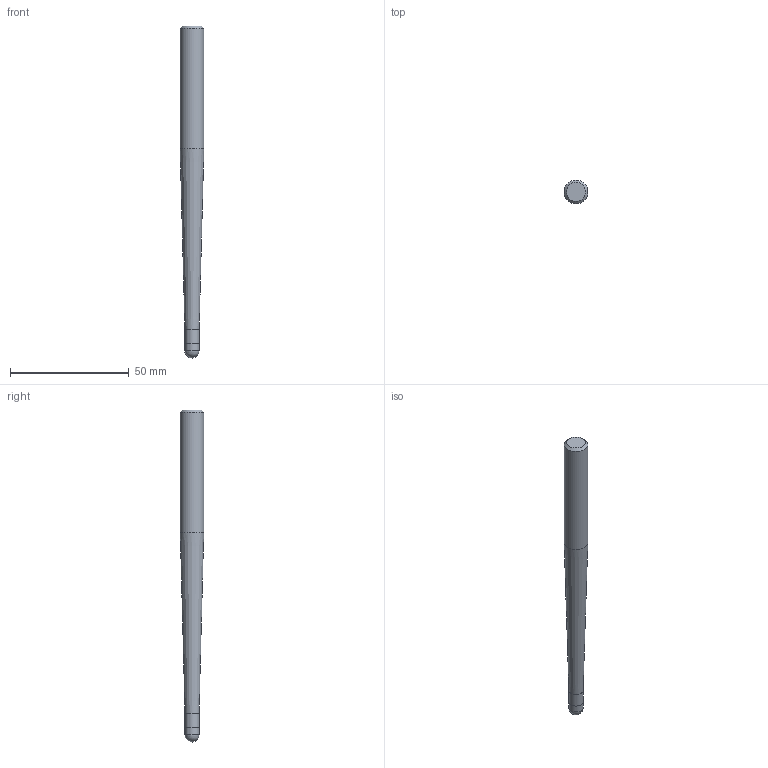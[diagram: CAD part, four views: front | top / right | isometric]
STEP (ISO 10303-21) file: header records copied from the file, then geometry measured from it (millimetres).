
FILE_DESCRIPTION((''),'2;1');
FILE_NAME('C:\Users\nsx150\AppData\Local\Temp\Mastercam 2021\SNAKH10GOD\TEMP.step','2021-10-21T13:33:59',(''),(''),'STEP Write','Mastercam 2021 ... CNC Software, Inc.','');
FILE_SCHEMA(('AUTOMOTIVE_DESIGN'));
Length unit declared in the file: millimetre
Products named in the file (1): None
Bounding box: 10 x 10 x 140 mm (x, y, z)
Volume: 8262.1 mm3; surface area: 3881.1 mm2
Topology: 2 solids, 2 shells, 9 faces, 14 edges, 8 vertices
Faces by surface type: plane 3, cylinder 3, cone 2, sphere 1
Full cylindrical faces by diameter (mm): 5.98 x1, 6 x1, 10 x1
Entity records: 211 total; most frequent: DIRECTION 36, CARTESIAN_POINT 25, AXIS2_PLACEMENT_3D 18, ORIENTED_EDGE 14, EDGE_LOOP 14, STYLED_ITEM 12, ADVANCED_FACE 9, FACE_BOUND 8
